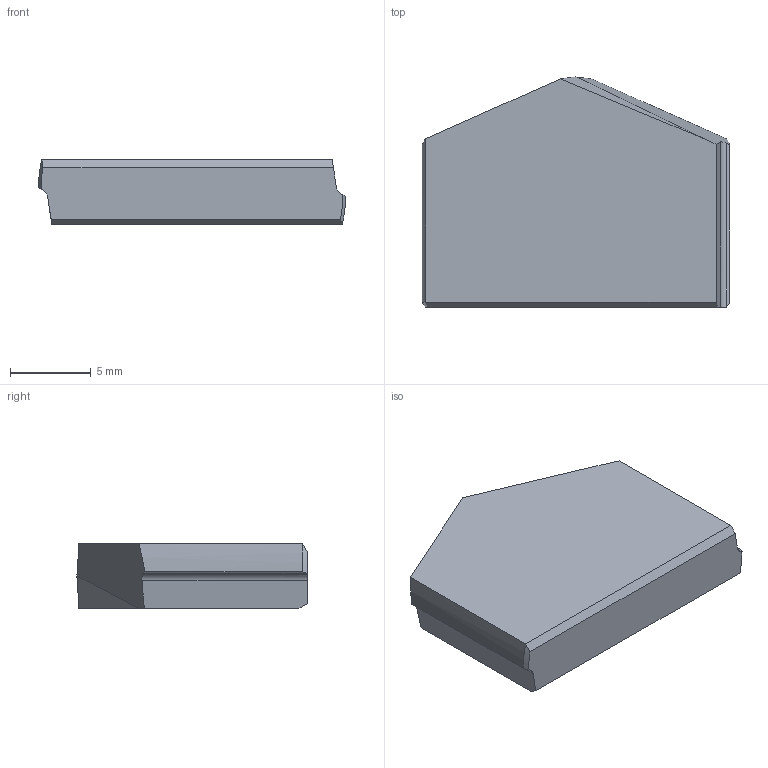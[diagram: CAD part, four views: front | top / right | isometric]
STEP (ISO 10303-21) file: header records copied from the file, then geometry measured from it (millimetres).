
FILE_DESCRIPTION (( 'STEP AP214' ), '1' );
FILE_NAME ('3-4.STEP', '2022-06-24T05:43:41', ( '' ), ( '' ), 'SwSTEP 2.0', 'SolidWorks 2018', '' );
FILE_SCHEMA (( 'AUTOMOTIVE_DESIGN' ));
Length unit declared in the file: millimetre
Products named in the file (1): 3-4
Bounding box: 19.04 x 14.25 x 4 mm (x, y, z)
Volume: 888.2 mm3; surface area: 672.4 mm2
Topology: 1 solids, 1 shells, 19 faces, 50 edges, 33 vertices
Faces by surface type: plane 13, cylinder 4, cone 2
Entity records: 620 total; most frequent: CARTESIAN_POINT 133, ORIENTED_EDGE 100, DIRECTION 86, EDGE_CURVE 50, VECTOR 34, LINE 34, VERTEX_POINT 33, AXIS2_PLACEMENT_3D 26
